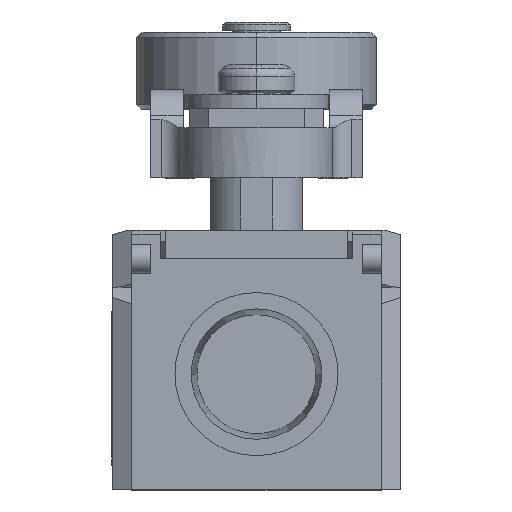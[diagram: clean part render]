
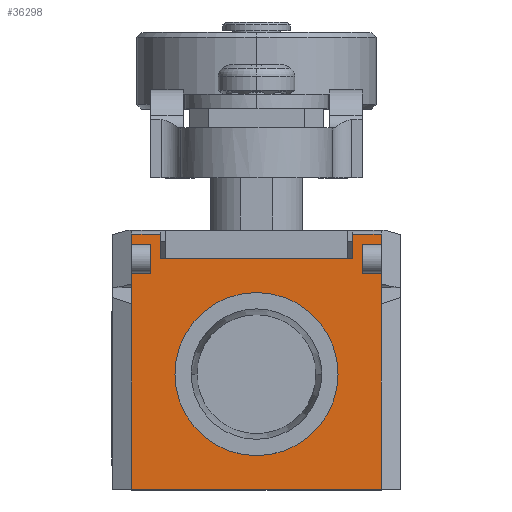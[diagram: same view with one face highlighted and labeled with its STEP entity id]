
A CAD part, top view. The second image highlights one B-rep face of the part: STEP entity #36298.
In plain terms, the highlighted planar face has unit normal (0, 0, 1).
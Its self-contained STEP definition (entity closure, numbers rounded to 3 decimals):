
#6666=DIRECTION('',(1.,0.,0.));
#6667=VECTOR('',#6666,26.);
#6668=CARTESIAN_POINT('',(-13.,0.,45.));
#6669=LINE('',#6668,#6667);
#7957=DIRECTION('',(0.,1.,0.));
#7958=VECTOR('',#7957,2.078);
#7959=CARTESIAN_POINT('',(13.,19.323,45.));
#7960=LINE('',#7959,#7958);
#7979=DIRECTION('',(-1.,0.,0.));
#7980=VECTOR('',#7979,2.);
#7981=CARTESIAN_POINT('',(13.,25.5,45.));
#7982=LINE('',#7981,#7980);
#7986=DIRECTION('',(0.,-1.,0.));
#7987=VECTOR('',#7986,1.5);
#7988=CARTESIAN_POINT('',(11.,25.5,45.));
#7989=LINE('',#7988,#7987);
#7993=DIRECTION('',(0.,-1.,0.));
#7994=VECTOR('',#7993,1.5);
#7995=CARTESIAN_POINT('',(11.,24.,45.));
#7996=LINE('',#7995,#7994);
#8000=DIRECTION('',(-1.,0.,0.));
#8001=VECTOR('',#8000,2.);
#8002=CARTESIAN_POINT('',(13.,22.5,45.));
#8003=LINE('',#8002,#8001);
#8007=DIRECTION('',(0.,-1.,0.));
#8008=VECTOR('',#8007,1.098);
#8009=CARTESIAN_POINT('',(13.,22.5,45.));
#8010=LINE('',#8009,#8008);
#8014=DIRECTION('',(0.,1.,0.));
#8015=VECTOR('',#8014,19.323);
#8016=CARTESIAN_POINT('',(13.,0.,45.));
#8017=LINE('',#8016,#8015);
#8021=DIRECTION('',(0.,1.,0.));
#8022=VECTOR('',#8021,19.323);
#8023=CARTESIAN_POINT('',(-13.,0.,45.));
#8024=LINE('',#8023,#8022);
#8028=DIRECTION('',(0.,-1.,0.));
#8029=VECTOR('',#8028,1.098);
#8030=CARTESIAN_POINT('',(-13.,22.5,45.));
#8031=LINE('',#8030,#8029);
#8035=DIRECTION('',(1.,0.,0.));
#8036=VECTOR('',#8035,2.);
#8037=CARTESIAN_POINT('',(-13.,22.5,45.));
#8038=LINE('',#8037,#8036);
#8042=DIRECTION('',(0.,-1.,0.));
#8043=VECTOR('',#8042,1.5);
#8044=CARTESIAN_POINT('',(-11.,24.,45.));
#8045=LINE('',#8044,#8043);
#8049=DIRECTION('',(0.,-1.,0.));
#8050=VECTOR('',#8049,1.5);
#8051=CARTESIAN_POINT('',(-11.,25.5,45.));
#8052=LINE('',#8051,#8050);
#8056=DIRECTION('',(1.,0.,0.));
#8057=VECTOR('',#8056,2.);
#8058=CARTESIAN_POINT('',(-13.,25.5,45.));
#8059=LINE('',#8058,#8057);
#8063=DIRECTION('',(0.,-1.,0.));
#8064=VECTOR('',#8063,1.098);
#8065=CARTESIAN_POINT('',(-13.,26.598,45.));
#8066=LINE('',#8065,#8064);
#8070=DIRECTION('',(1.,0.,0.));
#8071=VECTOR('',#8070,3.);
#8072=CARTESIAN_POINT('',(-13.,26.598,45.));
#8073=LINE('',#8072,#8071);
#8077=DIRECTION('',(0.,-1.,0.));
#8078=VECTOR('',#8077,2.598);
#8079=CARTESIAN_POINT('',(-10.,26.598,45.));
#8080=LINE('',#8079,#8078);
#8084=DIRECTION('',(1.,0.,0.));
#8085=VECTOR('',#8084,20.);
#8086=CARTESIAN_POINT('',(-10.,24.,45.));
#8087=LINE('',#8086,#8085);
#8091=DIRECTION('',(0.,-1.,0.));
#8092=VECTOR('',#8091,2.598);
#8093=CARTESIAN_POINT('',(10.,26.598,45.));
#8094=LINE('',#8093,#8092);
#8098=DIRECTION('',(1.,0.,0.));
#8099=VECTOR('',#8098,3.);
#8100=CARTESIAN_POINT('',(10.,26.598,45.));
#8101=LINE('',#8100,#8099);
#8105=DIRECTION('',(0.,-1.,0.));
#8106=VECTOR('',#8105,1.098);
#8107=CARTESIAN_POINT('',(13.,26.598,45.));
#8108=LINE('',#8107,#8106);
#8112=CARTESIAN_POINT('',(0.,12.,45.));
#8113=DIRECTION('',(0.,0.,1.));
#8114=DIRECTION('',(0.,1.,0.));
#8115=AXIS2_PLACEMENT_3D('',#8112,#8113,#8114);
#8120=CARTESIAN_POINT('',(0.,12.,45.));
#8121=DIRECTION('',(0.,0.,1.));
#8122=DIRECTION('',(0.,-1.,0.));
#8123=AXIS2_PLACEMENT_3D('',#8120,#8121,#8122);
#8494=DIRECTION('',(0.,-1.,0.));
#8495=VECTOR('',#8494,2.078);
#8496=CARTESIAN_POINT('',(-13.,21.402,45.));
#8497=LINE('',#8496,#8495);
#23351=CARTESIAN_POINT('',(13.,0.,45.));
#23353=VERTEX_POINT('',#23351);
#23354=CARTESIAN_POINT('',(-13.,0.,45.));
#23356=VERTEX_POINT('',#23354);
#23367=CARTESIAN_POINT('',(13.,19.323,45.));
#23369=VERTEX_POINT('',#23367);
#23370=CARTESIAN_POINT('',(-13.,19.323,45.));
#23372=VERTEX_POINT('',#23370);
#23374=CARTESIAN_POINT('',(-10.,26.598,45.));
#23375=CARTESIAN_POINT('',(-10.,24.,45.));
#23376=VERTEX_POINT('',#23374);
#23377=VERTEX_POINT('',#23375);
#23378=CARTESIAN_POINT('',(10.,24.,45.));
#23379=VERTEX_POINT('',#23378);
#23380=CARTESIAN_POINT('',(10.,26.598,45.));
#23381=VERTEX_POINT('',#23380);
#25472=CARTESIAN_POINT('',(0.,20.5,45.));
#25473=CARTESIAN_POINT('',(0.,3.5,45.));
#25474=VERTEX_POINT('',#25472);
#25475=VERTEX_POINT('',#25473);
#26204=CARTESIAN_POINT('',(13.,26.598,45.));
#26205=CARTESIAN_POINT('',(13.,25.5,45.));
#26206=VERTEX_POINT('',#26204);
#26207=VERTEX_POINT('',#26205);
#26208=CARTESIAN_POINT('',(13.,22.5,45.));
#26209=CARTESIAN_POINT('',(13.,21.402,45.));
#26210=VERTEX_POINT('',#26208);
#26211=VERTEX_POINT('',#26209);
#26212=CARTESIAN_POINT('',(-13.,26.598,45.));
#26213=CARTESIAN_POINT('',(-13.,25.5,45.));
#26214=VERTEX_POINT('',#26212);
#26215=VERTEX_POINT('',#26213);
#26216=CARTESIAN_POINT('',(-13.,22.5,45.));
#26217=CARTESIAN_POINT('',(-13.,21.402,45.));
#26218=VERTEX_POINT('',#26216);
#26219=VERTEX_POINT('',#26217);
#26285=CARTESIAN_POINT('',(11.,24.,45.));
#26287=VERTEX_POINT('',#26285);
#26295=CARTESIAN_POINT('',(-11.,24.,45.));
#26297=VERTEX_POINT('',#26295);
#26300=CARTESIAN_POINT('',(11.,25.5,45.));
#26301=VERTEX_POINT('',#26300);
#26302=CARTESIAN_POINT('',(11.,22.5,45.));
#26303=VERTEX_POINT('',#26302);
#26304=CARTESIAN_POINT('',(-11.,25.5,45.));
#26305=VERTEX_POINT('',#26304);
#26306=CARTESIAN_POINT('',(-11.,22.5,45.));
#26307=VERTEX_POINT('',#26306);
#36243=CARTESIAN_POINT('',(-15.,0.,45.));
#36244=DIRECTION('',(0.,0.,1.));
#36245=DIRECTION('',(1.,0.,0.));
#36246=AXIS2_PLACEMENT_3D('',#36243,#36244,#36245);
#36247=PLANE('',#36246);
#36249=ORIENTED_EDGE('',*,*,#36248,.T.);
#36251=ORIENTED_EDGE('',*,*,#36250,.T.);
#36253=ORIENTED_EDGE('',*,*,#36252,.T.);
#36255=ORIENTED_EDGE('',*,*,#36254,.F.);
#36257=ORIENTED_EDGE('',*,*,#36256,.T.);
#36258=ORIENTED_EDGE('',*,*,#36227,.F.);
#36260=ORIENTED_EDGE('',*,*,#36259,.F.);
#36261=ORIENTED_EDGE('',*,*,#35011,.F.);
#36263=ORIENTED_EDGE('',*,*,#36262,.T.);
#36265=ORIENTED_EDGE('',*,*,#36264,.F.);
#36267=ORIENTED_EDGE('',*,*,#36266,.F.);
#36269=ORIENTED_EDGE('',*,*,#36268,.T.);
#36271=ORIENTED_EDGE('',*,*,#36270,.F.);
#36273=ORIENTED_EDGE('',*,*,#36272,.F.);
#36275=ORIENTED_EDGE('',*,*,#36274,.F.);
#36277=ORIENTED_EDGE('',*,*,#36276,.F.);
#36279=ORIENTED_EDGE('',*,*,#36278,.T.);
#36281=ORIENTED_EDGE('',*,*,#36280,.T.);
#36283=ORIENTED_EDGE('',*,*,#36282,.T.);
#36285=ORIENTED_EDGE('',*,*,#36284,.F.);
#36287=ORIENTED_EDGE('',*,*,#36286,.T.);
#36289=ORIENTED_EDGE('',*,*,#36288,.T.);
#36290=EDGE_LOOP('',(#36249,#36251,#36253,#36255,#36257,#36258,#36260,#36261,
#36263,#36265,#36267,#36269,#36271,#36273,#36275,#36277,#36279,#36281,#36283,
#36285,#36287,#36289));
#36291=FACE_OUTER_BOUND('',#36290,.F.);
#36293=ORIENTED_EDGE('',*,*,#36292,.T.);
#36295=ORIENTED_EDGE('',*,*,#36294,.T.);
#36296=EDGE_LOOP('',(#36293,#36295));
#36297=FACE_BOUND('',#36296,.F.);
#8116=CIRCLE('',#8115,8.5);
#8124=CIRCLE('',#8123,8.5);
#35011=EDGE_CURVE('',#23356,#23353,#6669,.T.);
#36227=EDGE_CURVE('',#23369,#26211,#7960,.T.);
#36248=EDGE_CURVE('',#26207,#26301,#7982,.T.);
#36250=EDGE_CURVE('',#26301,#26287,#7989,.T.);
#36252=EDGE_CURVE('',#26287,#26303,#7996,.T.);
#36254=EDGE_CURVE('',#26210,#26303,#8003,.T.);
#36256=EDGE_CURVE('',#26210,#26211,#8010,.T.);
#36259=EDGE_CURVE('',#23353,#23369,#8017,.T.);
#36262=EDGE_CURVE('',#23356,#23372,#8024,.T.);
#36264=EDGE_CURVE('',#26219,#23372,#8497,.T.);
#36266=EDGE_CURVE('',#26218,#26219,#8031,.T.);
#36268=EDGE_CURVE('',#26218,#26307,#8038,.T.);
#36270=EDGE_CURVE('',#26297,#26307,#8045,.T.);
#36272=EDGE_CURVE('',#26305,#26297,#8052,.T.);
#36274=EDGE_CURVE('',#26215,#26305,#8059,.T.);
#36276=EDGE_CURVE('',#26214,#26215,#8066,.T.);
#36278=EDGE_CURVE('',#26214,#23376,#8073,.T.);
#36280=EDGE_CURVE('',#23376,#23377,#8080,.T.);
#36282=EDGE_CURVE('',#23377,#23379,#8087,.T.);
#36284=EDGE_CURVE('',#23381,#23379,#8094,.T.);
#36286=EDGE_CURVE('',#23381,#26206,#8101,.T.);
#36288=EDGE_CURVE('',#26206,#26207,#8108,.T.);
#36292=EDGE_CURVE('',#25474,#25475,#8116,.T.);
#36294=EDGE_CURVE('',#25475,#25474,#8124,.T.);
#36298=ADVANCED_FACE('',(#36291,#36297),#36247,.T.);
